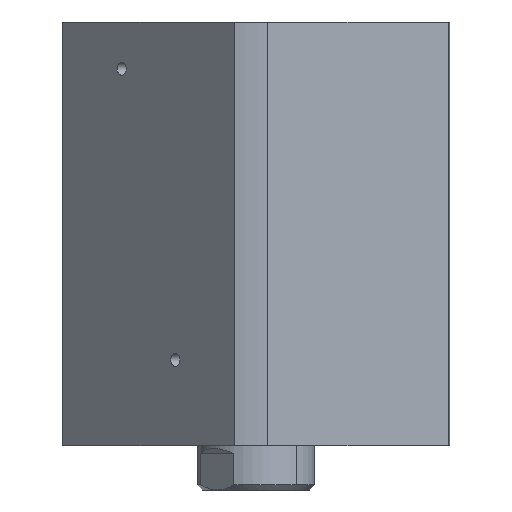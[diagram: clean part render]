
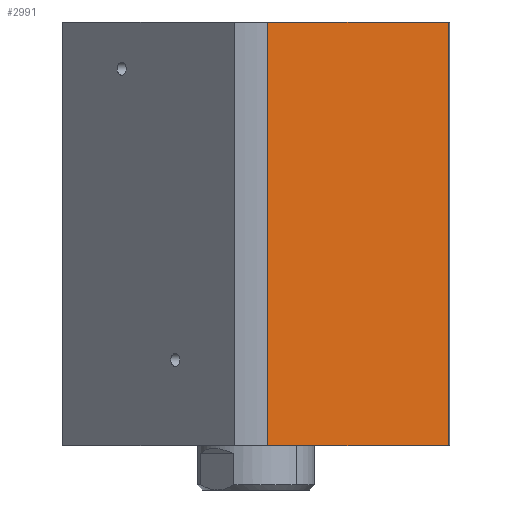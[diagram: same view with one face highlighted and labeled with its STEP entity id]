
A CAD part, front view. The second image highlights one B-rep face of the part: STEP entity #2991.
In plain terms, the highlighted planar face has unit normal (0.689, -0.725, 0) as drawn and (1, 0, 0) by its records, which use the part's own axes.
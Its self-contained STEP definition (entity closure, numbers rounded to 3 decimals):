
#223 = CARTESIAN_POINT ( 'NONE',  ( 57., 57., 163. ) ) ;
#349 = VERTEX_POINT ( 'NONE', #5739 ) ;
#560 = ORIENTED_EDGE ( 'NONE', *, *, #13082, .T. ) ;
#910 = ORIENTED_EDGE ( 'NONE', *, *, #7173, .F. ) ;
#1390 = DIRECTION ( 'NONE',  ( 0., -1., 0. ) ) ;
#1880 = DIRECTION ( 'NONE',  ( 0., 0., 1. ) ) ;
#2929 = CARTESIAN_POINT ( 'NONE',  ( 57., -47.971, 0. ) ) ;
#2941 = DIRECTION ( 'NONE',  ( 0., 1., 0. ) ) ;
#2991 = ADVANCED_FACE ( 'NONE', ( #10806 ), #13160, .F. ) ;
#2996 = EDGE_CURVE ( 'NONE', #6344, #349, #10425, .T. ) ;
#3461 = CARTESIAN_POINT ( 'NONE',  ( 57., 57., 163. ) ) ;
#4433 = AXIS2_PLACEMENT_3D ( 'NONE', #223, #8501, #1390 ) ;
#5382 = ORIENTED_EDGE ( 'NONE', *, *, #10082, .F. ) ;
#5699 = VECTOR ( 'NONE', #13540, 1000. ) ;
#5739 = CARTESIAN_POINT ( 'NONE',  ( 57., 47.971, 0. ) ) ;
#6344 = VERTEX_POINT ( 'NONE', #9683 ) ;
#6704 = EDGE_LOOP ( 'NONE', ( #910, #560, #15132, #5382 ) ) ;
#7173 = EDGE_CURVE ( 'NONE', #12020, #7322, #9114, .T. ) ;
#7322 = VERTEX_POINT ( 'NONE', #10346 ) ;
#7897 = DIRECTION ( 'NONE',  ( 0., 0., -1. ) ) ;
#8028 = VECTOR ( 'NONE', #7897, 1000. ) ;
#8501 = DIRECTION ( 'NONE',  ( -1., 0., 0. ) ) ;
#8854 = CARTESIAN_POINT ( 'NONE',  ( 57., -47.971, -137. ) ) ;
#8912 = VECTOR ( 'NONE', #2941, 1000. ) ;
#9114 = LINE ( 'NONE', #8854, #14978 ) ;
#9211 = LINE ( 'NONE', #3461, #5699 ) ;
#9683 = CARTESIAN_POINT ( 'NONE',  ( 57., 47.971, 163. ) ) ;
#10082 = EDGE_CURVE ( 'NONE', #7322, #6344, #9211, .T. ) ;
#10346 = CARTESIAN_POINT ( 'NONE',  ( 57., -47.971, 163. ) ) ;
#10425 = LINE ( 'NONE', #14913, #8028 ) ;
#10806 = FACE_OUTER_BOUND ( 'NONE', #6704, .T. ) ;
#12020 = VERTEX_POINT ( 'NONE', #2929 ) ;
#12371 = LINE ( 'NONE', #13503, #8912 ) ;
#13082 = EDGE_CURVE ( 'NONE', #12020, #349, #12371, .T. ) ;
#13160 = PLANE ( 'NONE',  #4433 ) ;
#13503 = CARTESIAN_POINT ( 'NONE',  ( 57., 57., 0. ) ) ;
#13540 = DIRECTION ( 'NONE',  ( 0., 1., 0. ) ) ;
#14913 = CARTESIAN_POINT ( 'NONE',  ( 57., 47.971, -137. ) ) ;
#14978 = VECTOR ( 'NONE', #1880, 1000. ) ;
#15132 = ORIENTED_EDGE ( 'NONE', *, *, #2996, .F. ) ;
